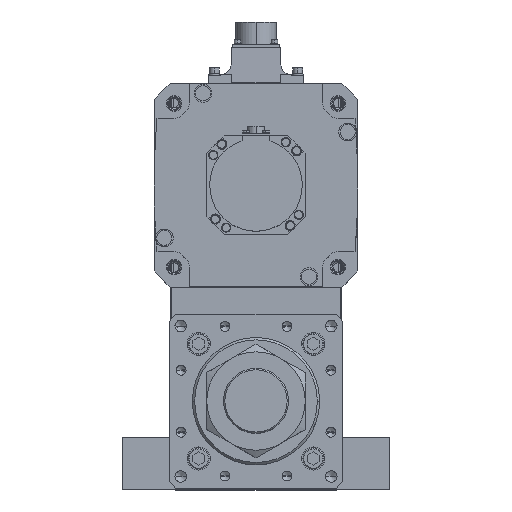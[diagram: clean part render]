
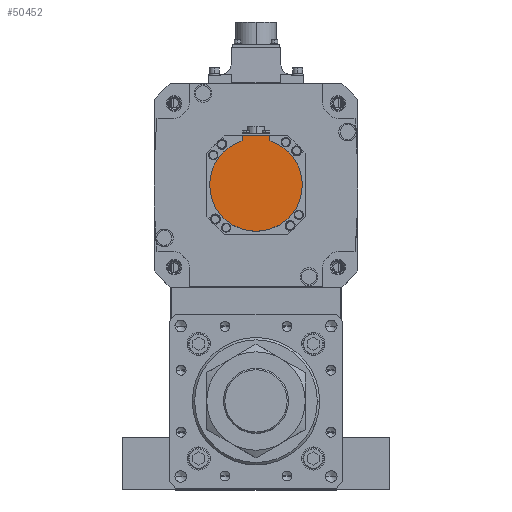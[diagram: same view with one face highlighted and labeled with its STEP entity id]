
A CAD part, top view. The second image highlights one B-rep face of the part: STEP entity #50452.
In plain terms, the highlighted planar face has unit normal (0, 0, 1) as drawn and (0, 0, -1) by its records, which use the part's own axes.
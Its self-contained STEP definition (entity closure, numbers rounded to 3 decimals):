
#1254 = ORIENTED_EDGE ( 'NONE', *, *, #14945, .T. ) ;
#1674 = DIRECTION ( 'NONE',  ( 0., 0., 1. ) ) ;
#2787 = ORIENTED_EDGE ( 'NONE', *, *, #25231, .F. ) ;
#3260 = CIRCLE ( 'NONE', #20247, 40. ) ;
#4135 = VECTOR ( 'NONE', #32995, 1000. ) ;
#4162 = CARTESIAN_POINT ( 'NONE',  ( 0., -42.5, -162.5 ) ) ;
#4386 = AXIS2_PLACEMENT_3D ( 'NONE', #15102, #52259, #48026 ) ;
#6042 = DIRECTION ( 'NONE',  ( 1., 0., 0. ) ) ;
#7061 = DIRECTION ( 'NONE',  ( 0., 1., 0. ) ) ;
#7322 = ORIENTED_EDGE ( 'NONE', *, *, #46967, .T. ) ;
#8288 = DIRECTION ( 'NONE',  ( 1., 0., 0. ) ) ;
#8379 = CARTESIAN_POINT ( 'NONE',  ( 12., -38.158, -162.5 ) ) ;
#8748 = CARTESIAN_POINT ( 'NONE',  ( 40., 0., -162.5 ) ) ;
#11688 = LINE ( 'NONE', #13231, #41731 ) ;
#13231 = CARTESIAN_POINT ( 'NONE',  ( 12., -1.249, -162.5 ) ) ;
#14423 = CARTESIAN_POINT ( 'NONE',  ( 0., 0., -162.5 ) ) ;
#14686 = ORIENTED_EDGE ( 'NONE', *, *, #34647, .F. ) ;
#14693 = EDGE_LOOP ( 'NONE', ( #7322, #2787, #19042, #34715, #14686, #1254 ) ) ;
#14945 = EDGE_CURVE ( 'NONE', #43779, #40082, #31581, .T. ) ;
#15102 = CARTESIAN_POINT ( 'NONE',  ( 0., -1.249, -162.5 ) ) ;
#16615 = LINE ( 'NONE', #23741, #47896 ) ;
#16807 = CARTESIAN_POINT ( 'NONE',  ( 0., 0., -162.5 ) ) ;
#18912 = AXIS2_PLACEMENT_3D ( 'NONE', #14423, #1674, #6042 ) ;
#19042 = ORIENTED_EDGE ( 'NONE', *, *, #43913, .F. ) ;
#20247 = AXIS2_PLACEMENT_3D ( 'NONE', #16807, #24712, #20506 ) ;
#20506 = DIRECTION ( 'NONE',  ( 1., 0., 0. ) ) ;
#23741 = CARTESIAN_POINT ( 'NONE',  ( -12., -40.329, -162.5 ) ) ;
#24712 = DIRECTION ( 'NONE',  ( 0., 0., 1. ) ) ;
#25231 = EDGE_CURVE ( 'NONE', #31595, #49242, #40405, .T. ) ;
#28190 = CARTESIAN_POINT ( 'NONE',  ( -12., -42.5, -162.5 ) ) ;
#30405 = CARTESIAN_POINT ( 'NONE',  ( -12., -38.158, -162.5 ) ) ;
#31581 = LINE ( 'NONE', #4162, #4135 ) ;
#31595 = VERTEX_POINT ( 'NONE', #34504 ) ;
#31837 = AXIS2_PLACEMENT_3D ( 'NONE', #37123, #53849, #8288 ) ;
#31941 = CARTESIAN_POINT ( 'NONE',  ( 12., -42.5, -162.5 ) ) ;
#32995 = DIRECTION ( 'NONE',  ( -1., 0., 0. ) ) ;
#34123 = EDGE_CURVE ( 'NONE', #43039, #53988, #42209, .T. ) ;
#34504 = CARTESIAN_POINT ( 'NONE',  ( -40., 0., -162.5 ) ) ;
#34647 = EDGE_CURVE ( 'NONE', #43779, #43039, #11688, .T. ) ;
#34715 = ORIENTED_EDGE ( 'NONE', *, *, #34123, .F. ) ;
#37123 = CARTESIAN_POINT ( 'NONE',  ( 0., 0., -162.5 ) ) ;
#38039 = DIRECTION ( 'NONE',  ( 0., 1., 0. ) ) ;
#40082 = VERTEX_POINT ( 'NONE', #28190 ) ;
#40116 = FACE_OUTER_BOUND ( 'NONE', #14693, .T. ) ;
#40405 = CIRCLE ( 'NONE', #31837, 40. ) ;
#41731 = VECTOR ( 'NONE', #38039, 1000. ) ;
#42209 = CIRCLE ( 'NONE', #18912, 40. ) ;
#43039 = VERTEX_POINT ( 'NONE', #8379 ) ;
#43779 = VERTEX_POINT ( 'NONE', #31941 ) ;
#43913 = EDGE_CURVE ( 'NONE', #53988, #31595, #3260, .T. ) ;
#46967 = EDGE_CURVE ( 'NONE', #40082, #49242, #16615, .T. ) ;
#47896 = VECTOR ( 'NONE', #7061, 1000. ) ;
#48026 = DIRECTION ( 'NONE',  ( 1., 0., 0. ) ) ;
#49242 = VERTEX_POINT ( 'NONE', #30405 ) ;
#50452 = ADVANCED_FACE ( 'NONE', ( #40116 ), #52437, .F. ) ;
#52259 = DIRECTION ( 'NONE',  ( 0., 0., 1. ) ) ;
#52437 = PLANE ( 'NONE',  #4386 ) ;
#53849 = DIRECTION ( 'NONE',  ( 0., 0., 1. ) ) ;
#53988 = VERTEX_POINT ( 'NONE', #8748 ) ;
